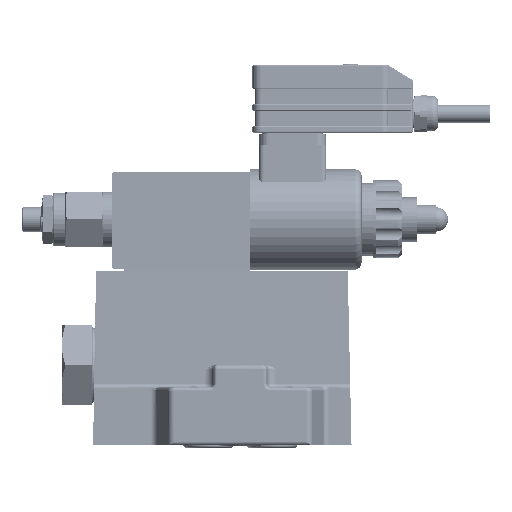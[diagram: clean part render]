
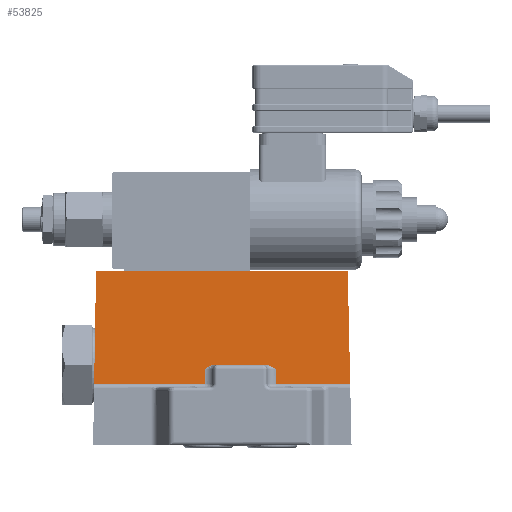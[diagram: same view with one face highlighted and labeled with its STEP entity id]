
A CAD part, front view. The second image highlights one B-rep face of the part: STEP entity #53825.
In plain terms, the highlighted planar face has unit normal (0, -1, 0.026).
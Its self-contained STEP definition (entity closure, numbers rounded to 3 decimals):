
#1649=PLANE('',#63913);
#3738=FACE_OUTER_BOUND('',#8341,.T.);
#8341=EDGE_LOOP('',(#20153,#20154,#20155,#20156,#20157,#20158,#20159,#20160,
#20161,#20162));
#14319=B_SPLINE_CURVE_WITH_KNOTS('',3,(#152209,#152210,#152211,#152212,
#152213,#152214,#152215,#152216,#152217,#152218,#152219,#152220,#152221),
 .UNSPECIFIED.,.F.,.F.,(4,1,2,2,2,2,4),(0.,0.125,0.187,
0.25,0.375,0.5,1.),.UNSPECIFIED.);
#14320=B_SPLINE_CURVE_WITH_KNOTS('',3,(#152222,#152223,#152224,#152225,
#152226,#152227,#152228,#152229,#152230,#152231,#152232,#152233,#152234,
#152235),.UNSPECIFIED.,.F.,.F.,(4,1,2,2,1,2,2,4),(0.,0.25,
0.375,0.5,0.625,0.688,
0.75,1.),.UNSPECIFIED.);
#20153=ORIENTED_EDGE('',*,*,#34518,.T.);
#20154=ORIENTED_EDGE('',*,*,#34652,.F.);
#20155=ORIENTED_EDGE('',*,*,#34408,.T.);
#20156=ORIENTED_EDGE('',*,*,#34653,.T.);
#20157=ORIENTED_EDGE('',*,*,#34654,.T.);
#20158=ORIENTED_EDGE('',*,*,#34646,.F.);
#20159=ORIENTED_EDGE('',*,*,#34655,.T.);
#20160=ORIENTED_EDGE('',*,*,#34656,.T.);
#20161=ORIENTED_EDGE('',*,*,#34423,.T.);
#20162=ORIENTED_EDGE('',*,*,#34657,.F.);
#34408=EDGE_CURVE('',#58992,#58991,#40719,.T.);
#34423=EDGE_CURVE('',#59005,#59004,#40727,.T.);
#34518=EDGE_CURVE('',#59075,#59073,#40760,.T.);
#34646=EDGE_CURVE('',#59154,#59155,#40830,.T.);
#34652=EDGE_CURVE('',#58992,#59073,#40834,.T.);
#34653=EDGE_CURVE('',#58991,#59160,#40835,.T.);
#34654=EDGE_CURVE('',#59160,#59155,#14319,.T.);
#34655=EDGE_CURVE('',#59154,#59161,#14320,.T.);
#34656=EDGE_CURVE('',#59161,#59005,#40836,.T.);
#34657=EDGE_CURVE('',#59075,#59004,#40837,.T.);
#40719=LINE('',#151230,#44910);
#40727=LINE('',#151287,#44918);
#40760=LINE('',#151796,#44951);
#40830=LINE('',#152187,#45021);
#40834=LINE('',#152206,#45025);
#40835=LINE('',#152207,#45026);
#40836=LINE('',#152237,#45027);
#40837=LINE('',#152238,#45028);
#44910=VECTOR('',#71498,1.);
#44918=VECTOR('',#71514,1.);
#44951=VECTOR('',#71643,1.);
#45021=VECTOR('',#71847,1.);
#45025=VECTOR('',#71853,1.);
#45026=VECTOR('',#71854,1.);
#45027=VECTOR('',#71855,1.);
#45028=VECTOR('',#71856,1.);
#53825=ADVANCED_FACE('',(#3738),#1649,.F.);
#58991=VERTEX_POINT('',#151229);
#58992=VERTEX_POINT('',#151231);
#59004=VERTEX_POINT('',#151286);
#59005=VERTEX_POINT('',#151288);
#59073=VERTEX_POINT('',#151794);
#59075=VERTEX_POINT('',#151797);
#59154=VERTEX_POINT('',#152188);
#59155=VERTEX_POINT('',#152189);
#59160=VERTEX_POINT('',#152208);
#59161=VERTEX_POINT('',#152236);
#63913=AXIS2_PLACEMENT_3D('',#152239,#71857,#71858);
#71498=DIRECTION('',(1.,0.,0.));
#71514=DIRECTION('',(1.,0.,0.));
#71643=DIRECTION('',(-1.,0.,0.));
#71847=DIRECTION('',(-1.,0.,0.));
#71853=DIRECTION('',(0.017,0.026,1.));
#71854=DIRECTION('',(0.,0.026,1.));
#71855=DIRECTION('',(0.,-0.026,-1.));
#71856=DIRECTION('',(0.022,-0.026,-0.999));
#71857=DIRECTION('',(0.,1.,-0.026));
#71858=DIRECTION('',(0.,-0.026,-1.));
#151229=CARTESIAN_POINT('',(-2.476,-65.498,27.559));
#151230=CARTESIAN_POINT('',(-2.476,-65.498,27.559));
#151231=CARTESIAN_POINT('',(-52.017,-65.498,27.559));
#151286=CARTESIAN_POINT('',(62.923,-65.498,27.559));
#151287=CARTESIAN_POINT('',(63.52,-65.498,27.559));
#151288=CARTESIAN_POINT('',(29.524,-65.498,27.559));
#151794=CARTESIAN_POINT('',(-51.17,-64.205,78.));
#151796=CARTESIAN_POINT('',(157.741,-64.205,78.));
#151797=CARTESIAN_POINT('',(61.83,-64.205,78.));
#152187=CARTESIAN_POINT('',(157.741,-65.282,36.));
#152188=CARTESIAN_POINT('',(25.099,-65.282,36.));
#152189=CARTESIAN_POINT('',(1.95,-65.282,36.));
#152206=CARTESIAN_POINT('',(-51.111,-64.115,81.505));
#152207=CARTESIAN_POINT('',(-2.476,-65.282,36.));
#152208=CARTESIAN_POINT('',(-2.476,-65.332,34.051));
#152209=CARTESIAN_POINT('',(-2.476,-65.332,34.051));
#152210=CARTESIAN_POINT('',(-2.261,-65.328,34.203));
#152211=CARTESIAN_POINT('',(-1.973,-65.323,34.404));
#152212=CARTESIAN_POINT('',(-1.737,-65.319,34.564));
#152213=CARTESIAN_POINT('',(-1.592,-65.316,34.661));
#152214=CARTESIAN_POINT('',(-1.558,-65.316,34.684));
#152215=CARTESIAN_POINT('',(-1.274,-65.311,34.868));
#152216=CARTESIAN_POINT('',(-1.092,-65.308,34.981));
#152217=CARTESIAN_POINT('',(-0.74,-65.303,35.186));
#152218=CARTESIAN_POINT('',(-0.619,-65.301,35.253));
#152219=CARTESIAN_POINT('',(0.438,-65.287,35.787));
#152220=CARTESIAN_POINT('',(1.224,-65.282,36.));
#152221=CARTESIAN_POINT('',(1.95,-65.282,36.));
#152222=CARTESIAN_POINT('',(25.099,-65.282,36.));
#152223=CARTESIAN_POINT('',(25.462,-65.282,36.));
#152224=CARTESIAN_POINT('',(26.028,-65.284,35.92));
#152225=CARTESIAN_POINT('',(26.629,-65.289,35.72));
#152226=CARTESIAN_POINT('',(27.037,-65.293,35.56));
#152227=CARTESIAN_POINT('',(27.294,-65.296,35.442));
#152228=CARTESIAN_POINT('',(27.619,-65.3,35.278));
#152229=CARTESIAN_POINT('',(27.873,-65.304,35.14));
#152230=CARTESIAN_POINT('',(28.142,-65.308,34.978));
#152231=CARTESIAN_POINT('',(28.324,-65.311,34.866));
#152232=CARTESIAN_POINT('',(28.451,-65.313,34.785));
#152233=CARTESIAN_POINT('',(28.757,-65.318,34.587));
#152234=CARTESIAN_POINT('',(29.094,-65.324,34.355));
#152235=CARTESIAN_POINT('',(29.524,-65.332,34.051));
#152236=CARTESIAN_POINT('',(29.524,-65.332,34.051));
#152237=CARTESIAN_POINT('',(29.524,-65.538,26.));
#152238=CARTESIAN_POINT('',(61.875,-64.258,75.924));
#152239=CARTESIAN_POINT('',(157.741,-64.205,78.));
